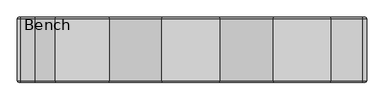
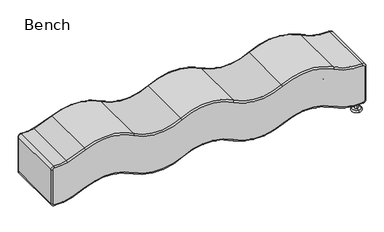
"""IFC4 building model written with IfcOpenShell, lengths in millimetres: furniture geometry, Steelcase Coalesse - Ripple - Seating - Upholstered Wave Bench : Bench."""

from ifc_helpers import new_model, si_unit, point, frame, origin, place, context, project, spatial, polyline, circle_curve, ellipse_curve, trimmed, source, transform, mapped, element, save
from ifc_brep_helpers import plane_surface, cylinder_surface, revolved_surface, advanced_brep


def bench_e00897dc(model_context):
    return source(origin(), model_context, "Body", "AdvancedBrep", [
        advanced_brep(
        [(217.0808224, -560.6034802, 394.8459861), (354.9260338, -560.6034802, 447.9823622), (359.2745131, -550.5474749, 438.9151702), (219.9435352, -550.5474749, 385.206063), (217.0808224, -997.5874749, 394.8459861), (354.9260338, -997.5874749, 447.9823622), (219.9731401, -1007.7474749, 385.1063713), (359.3194831, -1007.7474749, 438.8214014), (116.9633302, -550.5474749, 375.4634643), (117.9674344, -560.6034802, 385.4692135), (117.9674344, -997.5874749, 385.4692135), (116.9529462, -1007.7474749, 375.3599894), (103.6607329, -550.5474749, 363.4290037), (93.6047276, -560.6034802, 363.4290037), (93.6047276, -997.5874749, 363.4290037), (103.7647276, -1007.7474749, 363.4290037), (103.6607329, -550.5474749, 85.1991226), (93.6047276, -560.6034802, 85.1991226), (93.6047276, -997.5874749, 85.1991226), (103.7647276, -1007.7474749, 85.1991226), (117.9374665, -550.5474749, 69.6773498), (117.0986123, -560.6034802, 59.6563935), (117.0986123, -997.5874749, 59.6563935), (117.9461416, -1007.7474749, 69.7809821), (249.9208997, -550.5474749, 86.1724193), (253.2002344, -560.6034802, 76.6661474), (253.2002344, -997.5874749, 76.6661474), (249.8869863, -1007.7474749, 86.2707289), (361.761881, -550.5474749, 132.1036576), (366.1103603, -560.6034802, 123.0364656), (366.1103603, -997.5874749, 123.0364656), (361.716911, -1007.7474749, 132.1974264), (730.9453564, -550.5474749, 120.3068952), (726.0268792, -560.6034802, 111.5358164), (726.0268792, -997.5874749, 111.5358164), (730.9962211, -1007.7474749, 120.3976018), (1118.8827691, -550.5474749, 120.3068952), (1123.8012464, -560.6034802, 111.5358164), (1123.8012464, -997.5874749, 111.5358164), (1118.8319044, -1007.7474749, 120.3976018), (1509.3680399, -550.5474749, 121.0917164), (1504.4848595, -560.6034802, 112.3009376), (1504.4848595, -997.5874749, 112.3009376), (1509.4185396, -1007.7474749, 121.1826267), (1900.6885639, -550.5474749, 121.0917164), (1905.5717442, -560.6034802, 112.3009376), (1905.5717442, -997.5874749, 112.3009376), (1900.6380642, -1007.7474749, 121.1826267), (2289.7676524, -550.5474749, 121.0917164), (2284.8844721, -560.6034802, 112.3009376), (2284.8844721, -997.5874749, 112.3009376), (2289.8181521, -1007.7474749, 121.1826267), (2522.5927919, -550.5474749, 72.1140228), (2523.5203324, -560.6034802, 62.1008859), (2523.5203324, -997.5874749, 62.1008859), (2522.5831997, -1007.7474749, 72.2175742), (2536.7321568, -550.5474749, 87.6236839), (2546.7881621, -560.6034802, 87.6236839), (2546.7881621, -997.5874749, 87.6236839), (2536.6281621, -1007.7474749, 87.6236839), (2536.7321568, -550.5474749, 362.8480902), (2546.7881621, -560.6034802, 362.8480902), (2546.7881621, -997.5874749, 362.8480902), (2536.6281621, -1007.7474749, 362.8480902), (2519.7867444, -550.5474749, 378.3638423), (2518.9026824, -560.6034802, 388.3809115), (2518.9026824, -997.5874749, 388.3809115), (2519.7958869, -1007.7474749, 378.2602502), (2294.1327157, -550.5474749, 426.8674159), (2299.0547927, -560.6034802, 435.6364751), (2299.0547927, -997.5874749, 435.6364751), (2294.0818138, -1007.7474749, 426.7767302), (1896.3235006, -550.5474749, 426.8674159), (1891.4014236, -560.6034802, 435.6364751), (1891.4014236, -997.5874749, 435.6364751), (1896.3744025, -1007.7474749, 426.7767302), (1513.7331032, -550.5474749, 426.8674159), (1518.6551802, -560.6034802, 435.6364751), (1518.6551802, -997.5874749, 435.6364751), (1513.6822013, -1007.7474749, 426.7767302), (1112.8516905, -550.5474749, 425.1253907), (1107.8535891, -560.6034802, 433.851342), (1107.8535891, -997.5874749, 433.851342), (1112.9033786, -1007.7474749, 425.0351508), (736.9764351, -550.5474749, 425.1253907), (741.9745365, -560.6034802, 433.851342), (741.9745365, -997.5874749, 433.851342), (736.924747, -1007.7474749, 425.0351508)],
        [
            (0, 1, circle_curve(frame((-48.5135949, -560.6034802, 1289.2108358), z_axis=(0.0, -1.0, 0.0), x_axis=(0.432426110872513, 0.0, -0.9016693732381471)), 932.9677802)),
            (1, 2, circle_curve(frame((359.2745131, -560.6034802, 438.9151702), z_axis=(-0.9016693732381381, 0.0, -0.4324261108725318), x_axis=(0.0, -1.0, 0.0)), 10.0560053)),
            (2, 3, circle_curve(frame((-48.5135949, -550.5474749, 1289.2108358), z_axis=(0.0, 1.0, 0.0), x_axis=(0.432426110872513, 0.0, -0.9016693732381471)), 943.0237855)),
            (3, 0, circle_curve(frame((219.9435352, -560.6034802, 385.206063), z_axis=(0.958623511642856, 0.0, 0.28467694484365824), x_axis=(0.0, -1.0, 0.0)), 10.0560053)),
            (0, 4),
            (4, 5, circle_curve(frame((-48.5135949, -997.5874749, 1289.2108358), z_axis=(0.0, -1.0, 0.0), x_axis=(0.432426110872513, 0.0, -0.9016693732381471)), 932.9677802)),
            (5, 1),
            (4, 6, circle_curve(frame((219.9731401, -997.5874749, 385.1063713), z_axis=(0.958623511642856, 0.0, 0.2846769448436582), x_axis=(0.0, -1.0, 0.0)), 10.16)),
            (6, 7, circle_curve(frame((-48.5135949, -1007.7474749, 1289.2108358), z_axis=(0.0, -1.0, 0.0), x_axis=(0.432426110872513, 0.0, -0.9016693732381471)), 943.1277802)),
            (7, 5, circle_curve(frame((359.3194831, -997.5874749, 438.8214014), z_axis=(-0.9016693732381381, 0.0, -0.4324261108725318), x_axis=(0.0, -1.0, 0.0)), 10.16)),
            (3, 8, circle_curve(frame((143.7044081, -550.5474749, 641.9343339), z_axis=(0.0, 1.0, 0.0), x_axis=(0.284676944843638, 0.0, -0.958623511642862)), 267.8092784)),
            (8, 9, circle_curve(frame((116.9633302, -560.6034802, 375.4634643), z_axis=(0.9950023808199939, 0.0, -0.09985120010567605), x_axis=(0.0, -1.0, 0.0)), 10.0560053)),
            (9, 0, circle_curve(frame((143.7044081, -560.6034802, 641.9343339), z_axis=(0.0, -1.0, 0.0), x_axis=(0.284676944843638, 0.0, -0.958623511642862)), 257.7532731)),
            (9, 10),
            (10, 4, circle_curve(frame((143.7044081, -997.5874749, 641.9343339), z_axis=(0.0, -1.0, 0.0), x_axis=(0.284676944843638, 0.0, -0.958623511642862)), 257.7532731)),
            (10, 11, circle_curve(frame((116.9529462, -997.5874749, 375.3599894), z_axis=(0.995002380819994, 0.0, -0.09985120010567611), x_axis=(0.0, -1.0, 0.0)), 10.16)),
            (11, 6, circle_curve(frame((143.7044081, -1007.7474749, 641.9343339), z_axis=(0.0, -1.0, 0.0), x_axis=(0.284676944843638, 0.0, -0.958623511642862)), 267.9132731)),
            (8, 12, circle_curve(frame((115.7556393, -550.5474749, 363.4290037), z_axis=(0.0, -1.0, 0.0), x_axis=(0.09985120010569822, 0.0, 0.9950023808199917)), 12.0949064)),
            (12, 13, circle_curve(frame((103.6607329, -560.6034802, 363.4290037), z_axis=(0.0, 0.0, 1.0), x_axis=(0.0, -1.0, 0.0)), 10.0560053)),
            (13, 9, circle_curve(frame((115.7556393, -560.6034802, 363.4290037), z_axis=(0.0, 1.0, 0.0), x_axis=(0.09985120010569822, 0.0, 0.9950023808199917)), 22.1509117)),
            (13, 14),
            (14, 10, circle_curve(frame((115.7556393, -997.5874749, 363.4290037), z_axis=(0.0, 1.0, 0.0), x_axis=(0.09985120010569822, 0.0, 0.9950023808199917)), 22.1509117)),
            (14, 15, circle_curve(frame((103.7647276, -997.5874749, 363.4290037), z_axis=(0.0, 0.0, 1.0), x_axis=(0.0, -1.0, 0.0)), 10.16)),
            (15, 11, circle_curve(frame((115.7556393, -1007.7474749, 363.4290037), z_axis=(0.0, 1.0, 0.0), x_axis=(0.09985120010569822, 0.0, 0.9950023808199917)), 11.9909117)),
            (12, 16),
            (16, 17, circle_curve(frame((103.6607329, -560.6034802, 85.1991226), z_axis=(0.0, 0.0, 1.0), x_axis=(0.0, -1.0, 0.0)), 10.0560053)),
            (17, 13),
            (17, 18),
            (18, 14),
            (18, 19, circle_curve(frame((103.7647276, -997.5874749, 85.1991226), z_axis=(0.0, 0.0, 1.0), x_axis=(0.0, -1.0, 0.0)), 10.16)),
            (19, 15),
            (16, 20, circle_curve(frame((119.2367941, -550.5474749, 85.1991226), z_axis=(0.0, -1.0, 0.0), x_axis=(-1.0, 0.0, 0.0)), 15.5760612)),
            (20, 21, circle_curve(frame((117.9374665, -560.6034802, 69.6773498), z_axis=(-0.996514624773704, 0.0, 0.08341823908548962), x_axis=(0.0, -1.0, 0.0)), 10.0560053)),
            (21, 17, circle_curve(frame((119.2367941, -560.6034802, 85.1991226), z_axis=(0.0, 1.0, 0.0), x_axis=(-1.0, 0.0, 0.0)), 25.6320665)),
            (21, 22),
            (22, 18, circle_curve(frame((119.2367941, -997.5874749, 85.1991226), z_axis=(0.0, 1.0, 0.0), x_axis=(-1.0, 0.0, 0.0)), 25.6320665)),
            (22, 23, circle_curve(frame((117.9461416, -997.5874749, 69.7809821), z_axis=(-0.9965146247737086, 0.0, 0.08341823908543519), x_axis=(0.0, -1.0, 0.0)), 10.16)),
            (23, 19, circle_curve(frame((119.2367941, -1007.7474749, 85.1991226), z_axis=(0.0, 1.0, 0.0), x_axis=(-1.0, 0.0, 0.0)), 15.4720665)),
            (20, 24, circle_curve(frame((144.8218241, -550.5474749, 390.8379955), z_axis=(0.0, -1.0, 0.0), x_axis=(-0.08341823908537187, 0.0, -0.9965146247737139)), 322.2839261)),
            (24, 25, circle_curve(frame((249.9208997, -560.6034802, 86.1724193), z_axis=(-0.9453328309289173, 0.0, -0.3261070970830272), x_axis=(0.0, -1.0, 0.0)), 10.0560053)),
            (25, 21, circle_curve(frame((144.8218241, -560.6034802, 390.8379955), z_axis=(0.0, 1.0, 0.0), x_axis=(-0.08341823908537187, 0.0, -0.9965146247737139)), 332.3399313)),
            (25, 26),
            (26, 22, circle_curve(frame((144.8218241, -997.5874749, 390.8379955), z_axis=(0.0, 1.0, 0.0), x_axis=(-0.08341823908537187, 0.0, -0.9965146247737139)), 332.3399313)),
            (26, 27, circle_curve(frame((249.8869863, -997.5874749, 86.2707289), z_axis=(-0.9453328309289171, 0.0, -0.326107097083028), x_axis=(0.0, -1.0, 0.0)), 10.16)),
            (27, 23, circle_curve(frame((144.8218241, -1007.7474749, 390.8379955), z_axis=(0.0, 1.0, 0.0), x_axis=(-0.08341823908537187, 0.0, -0.9965146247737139)), 322.1799313)),
            (24, 28, circle_curve(frame((-93.1234576, -550.5474749, 1080.6036854), z_axis=(0.0, -1.0, 0.0), x_axis=(0.32610709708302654, 0.0, -0.9453328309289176)), 1051.9377235)),
            (28, 29, circle_curve(frame((361.761881, -560.6034802, 132.1036576), z_axis=(-0.9016693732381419, 0.0, -0.43242611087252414), x_axis=(0.0, -1.0, 0.0)), 10.0560053)),
            (29, 25, circle_curve(frame((-93.1234576, -560.6034802, 1080.6036854), z_axis=(0.0, 1.0, 0.0), x_axis=(0.32610709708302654, 0.0, -0.9453328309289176)), 1061.9937288)),
            (29, 30),
            (30, 26, circle_curve(frame((-93.1234576, -997.5874749, 1080.6036854), z_axis=(0.0, 1.0, 0.0), x_axis=(0.32610709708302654, 0.0, -0.9453328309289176)), 1061.9937288)),
            (30, 31, circle_curve(frame((361.716911, -997.5874749, 132.1974264), z_axis=(-0.9016693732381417, 0.0, -0.4324261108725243), x_axis=(0.0, -1.0, 0.0)), 10.16)),
            (31, 27, circle_curve(frame((-93.1234576, -1007.7474749, 1080.6036854), z_axis=(0.0, 1.0, 0.0), x_axis=(0.32610709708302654, 0.0, -0.9453328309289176)), 1051.8337288)),
            (28, 32, circle_curve(frame((534.9996299, -550.5474749, -229.1214593), z_axis=(0.0, 1.0, 0.0), x_axis=(-0.4324261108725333, 0.0, 0.9016693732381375)), 400.6181508)),
            (32, 33, circle_curve(frame((730.9453564, -560.6034802, 120.3068952), z_axis=(-0.8722229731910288, 0.0, 0.489108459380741), x_axis=(0.0, -1.0, 0.0)), 10.0560053)),
            (33, 29, circle_curve(frame((534.9996299, -560.6034802, -229.1214593), z_axis=(0.0, -1.0, 0.0), x_axis=(-0.4324261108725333, 0.0, 0.9016693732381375)), 390.5621455)),
            (33, 34),
            (34, 30, circle_curve(frame((534.9996299, -997.5874749, -229.1214593), z_axis=(0.0, -1.0, 0.0), x_axis=(-0.4324261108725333, 0.0, 0.9016693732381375)), 390.5621455)),
            (34, 35, circle_curve(frame((730.9962211, -997.5874749, 120.3976018), z_axis=(-0.8722229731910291, 0.0, 0.48910845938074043), x_axis=(0.0, -1.0, 0.0)), 10.16)),
            (35, 31, circle_curve(frame((534.9996299, -1007.7474749, -229.1214593), z_axis=(0.0, -1.0, 0.0), x_axis=(-0.4324261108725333, 0.0, 0.9016693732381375)), 400.7221455)),
            (32, 36, circle_curve(frame((924.9140628, -550.5474749, 466.2096465), z_axis=(0.0, -1.0, 0.0), x_axis=(-0.4891084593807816, 0.0, -0.872222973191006)), 396.5760612)),
            (36, 37, circle_curve(frame((1118.8827691, -560.6034802, 120.3068952), z_axis=(-0.8722229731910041, 0.0, -0.48910845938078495), x_axis=(0.0, -1.0, 0.0)), 10.0560053)),
            (37, 33, circle_curve(frame((924.9140628, -560.6034802, 466.2096465), z_axis=(0.0, 1.0, 0.0), x_axis=(-0.4891084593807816, 0.0, -0.872222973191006)), 406.6320665)),
            (37, 38),
            (38, 34, circle_curve(frame((924.9140628, -997.5874749, 466.2096465), z_axis=(0.0, 1.0, 0.0), x_axis=(-0.4891084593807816, 0.0, -0.872222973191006)), 406.6320665)),
            (38, 39, circle_curve(frame((1118.8319044, -997.5874749, 120.3976018), z_axis=(-0.8722229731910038, 0.0, -0.4891084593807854), x_axis=(0.0, -1.0, 0.0)), 10.16)),
            (39, 35, circle_curve(frame((924.9140628, -1007.7474749, 466.2096465), z_axis=(0.0, 1.0, 0.0), x_axis=(-0.4891084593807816, 0.0, -0.872222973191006)), 396.4720665)),
            (36, 40, circle_curve(frame((1314.8284956, -550.5474749, -229.1214593), z_axis=(0.0, 1.0, 0.0), x_axis=(-0.48910845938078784, 0.0, 0.8722229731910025)), 400.6181508)),
            (40, 41, circle_curve(frame((1509.3680399, -560.6034802, 121.0917164), z_axis=(-0.8741819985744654, 0.0, 0.485598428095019), x_axis=(0.0, -1.0, 0.0)), 10.0560053)),
            (41, 37, circle_curve(frame((1314.8284956, -560.6034802, -229.1214593), z_axis=(0.0, -1.0, 0.0), x_axis=(-0.48910845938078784, 0.0, 0.8722229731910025)), 390.5621455)),
            (41, 42),
            (42, 38, circle_curve(frame((1314.8284956, -997.5874749, -229.1214593), z_axis=(0.0, -1.0, 0.0), x_axis=(-0.48910845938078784, 0.0, 0.8722229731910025)), 390.5621455)),
            (42, 43, circle_curve(frame((1509.4185396, -997.5874749, 121.1826267), z_axis=(-0.8741819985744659, 0.0, 0.4855984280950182), x_axis=(0.0, -1.0, 0.0)), 10.16)),
            (43, 39, circle_curve(frame((1314.8284956, -1007.7474749, -229.1214593), z_axis=(0.0, -1.0, 0.0), x_axis=(-0.48910845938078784, 0.0, 0.8722229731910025)), 400.7221455)),
            (40, 44, circle_curve(frame((1705.0283019, -550.5474749, 473.3224259), z_axis=(0.0, -1.0, 0.0), x_axis=(-0.4855984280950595, 0.0, -0.8741819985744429)), 402.9260612)),
            (44, 45, circle_curve(frame((1900.6885639, -560.6034802, 121.0917164), z_axis=(-0.874181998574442, 0.0, -0.48559842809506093), x_axis=(0.0, -1.0, 0.0)), 10.0560053)),
            (45, 41, circle_curve(frame((1705.0283019, -560.6034802, 473.3224259), z_axis=(0.0, 1.0, 0.0), x_axis=(-0.4855984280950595, 0.0, -0.8741819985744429)), 412.9820665)),
            (45, 46),
            (46, 42, circle_curve(frame((1705.0283019, -997.5874749, 473.3224259), z_axis=(0.0, 1.0, 0.0), x_axis=(-0.4855984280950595, 0.0, -0.8741819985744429)), 412.9820665)),
            (46, 47, circle_curve(frame((1900.6380642, -997.5874749, 121.1826267), z_axis=(-0.8741819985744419, 0.0, -0.4855984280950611), x_axis=(0.0, -1.0, 0.0)), 10.16)),
            (47, 43, circle_curve(frame((1705.0283019, -1007.7474749, 473.3224259), z_axis=(0.0, 1.0, 0.0), x_axis=(-0.4855984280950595, 0.0, -0.8741819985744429)), 402.8220665)),
            (44, 48, circle_curve(frame((2095.2281081, -550.5474749, -229.1214593), z_axis=(0.0, 1.0, 0.0), x_axis=(-0.4855984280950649, 0.0, 0.8741819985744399)), 400.6181508)),
            (48, 49, circle_curve(frame((2289.7676524, -560.6034802, 121.0917164), z_axis=(-0.8741819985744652, 0.0, 0.48559842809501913), x_axis=(0.0, -1.0, 0.0)), 10.0560053)),
            (49, 45, circle_curve(frame((2095.2281081, -560.6034802, -229.1214593), z_axis=(0.0, -1.0, 0.0), x_axis=(-0.4855984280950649, 0.0, 0.8741819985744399)), 390.5621455)),
            (49, 50),
            (50, 46, circle_curve(frame((2095.2281081, -997.5874749, -229.1214593), z_axis=(0.0, -1.0, 0.0), x_axis=(-0.4855984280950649, 0.0, 0.8741819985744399)), 390.5621455)),
            (50, 51, circle_curve(frame((2289.8181521, -997.5874749, 121.1826267), z_axis=(-0.8741819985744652, 0.0, 0.48559842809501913), x_axis=(0.0, -1.0, 0.0)), 10.16)),
            (51, 47, circle_curve(frame((2095.2281081, -1007.7474749, -229.1214593), z_axis=(0.0, -1.0, 0.0), x_axis=(-0.4855984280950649, 0.0, 0.8741819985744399)), 400.7221455)),
            (48, 52, circle_curve(frame((2485.4279144, -550.5474749, 473.3224259), z_axis=(0.0, -1.0, 0.0), x_axis=(-0.4855984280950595, 0.0, -0.8741819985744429)), 402.9260612)),
            (52, 53, circle_curve(frame((2522.5927919, -560.6034802, 72.1140228), z_axis=(-0.9957370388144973, 0.0, -0.0922374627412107), x_axis=(0.0, -1.0, 0.0)), 10.0560053)),
            (53, 49, circle_curve(frame((2485.4279144, -560.6034802, 473.3224259), z_axis=(0.0, 1.0, 0.0), x_axis=(-0.4855984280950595, 0.0, -0.8741819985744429)), 412.9820665)),
            (53, 54),
            (54, 50, circle_curve(frame((2485.4279144, -997.5874749, 473.3224259), z_axis=(0.0, 1.0, 0.0), x_axis=(-0.4855984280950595, 0.0, -0.8741819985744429)), 412.9820665)),
            (54, 55, circle_curve(frame((2522.5831997, -997.5874749, 72.2175742), z_axis=(-0.9957370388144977, 0.0, -0.09223746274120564), x_axis=(0.0, -1.0, 0.0)), 10.16)),
            (55, 51, circle_curve(frame((2485.4279144, -1007.7474749, 473.3224259), z_axis=(0.0, 1.0, 0.0), x_axis=(-0.4855984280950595, 0.0, -0.8741819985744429)), 402.8220665)),
            (52, 56, circle_curve(frame((2521.1560956, -550.5474749, 87.6236839), z_axis=(0.0, -1.0, 0.0), x_axis=(0.09223746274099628, 0.0, -0.9957370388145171)), 15.5760612)),
            (56, 57, circle_curve(frame((2536.7321568, -560.6034802, 87.6236839), z_axis=(0.0, 0.0, -1.0), x_axis=(0.0, -1.0, 0.0)), 10.0560053)),
            (57, 53, circle_curve(frame((2521.1560956, -560.6034802, 87.6236839), z_axis=(0.0, 1.0, 0.0), x_axis=(0.09223746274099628, 0.0, -0.9957370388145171)), 25.6320665)),
            (57, 58),
            (58, 54, circle_curve(frame((2521.1560956, -997.5874749, 87.6236839), z_axis=(0.0, 1.0, 0.0), x_axis=(0.09223746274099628, 0.0, -0.9957370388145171)), 25.6320665)),
            (58, 59, circle_curve(frame((2536.6281621, -997.5874749, 87.6236839), z_axis=(0.0, 0.0, -0.9999999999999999), x_axis=(0.0, -1.0, 0.0)), 10.16)),
            (59, 55, circle_curve(frame((2521.1560956, -1007.7474749, 87.6236839), z_axis=(0.0, 1.0, 0.0), x_axis=(0.09223746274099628, 0.0, -0.9957370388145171)), 15.4720665)),
            (56, 60),
            (60, 61, circle_curve(frame((2536.7321568, -560.6034802, 362.8480902), z_axis=(0.0, 0.0, -1.0), x_axis=(0.0, -1.0, 0.0)), 10.0560053)),
            (61, 57),
            (61, 62),
            (62, 58),
            (62, 63, circle_curve(frame((2536.6281621, -997.5874749, 362.8480902), z_axis=(0.0, 0.0, -1.0), x_axis=(0.0, -1.0, 0.0)), 10.16)),
            (63, 59),
            (60, 64, circle_curve(frame((2521.1560956, -550.5474749, 362.8480902), z_axis=(0.0, -1.0, 0.0), x_axis=(1.0, 0.0, 0.0)), 15.5760612)),
            (64, 65, circle_curve(frame((2519.7867444, -560.6034802, 378.3638423), z_axis=(0.9961280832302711, 0.0, 0.08791383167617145), x_axis=(0.0, -1.0, 0.0)), 10.0560053)),
            (65, 61, circle_curve(frame((2521.1560956, -560.6034802, 362.8480902), z_axis=(0.0, 1.0, 0.0), x_axis=(1.0, 0.0, 0.0)), 25.6320665)),
            (65, 66),
            (66, 62, circle_curve(frame((2521.1560956, -997.5874749, 362.8480902), z_axis=(0.0, 1.0, 0.0), x_axis=(1.0, 0.0, 0.0)), 25.6320665)),
            (66, 67, circle_curve(frame((2519.7958869, -997.5874749, 378.2602502), z_axis=(0.9961280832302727, 0.0, 0.08791383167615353), x_axis=(0.0, -1.0, 0.0)), 10.16)),
            (67, 63, circle_curve(frame((2521.1560956, -1007.7474749, 362.8480902), z_axis=(0.0, 1.0, 0.0), x_axis=(1.0, 0.0, 0.0)), 15.4720665)),
            (64, 68, circle_curve(frame((2485.4279144, -550.5474749, 767.6745433), z_axis=(0.0, 1.0, 0.0), x_axis=(0.08791383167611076, 0.0, -0.9961280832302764)), 390.8239388)),
            (68, 69, circle_curve(frame((2294.1327157, -560.6034802, 426.8674159), z_axis=(0.872022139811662, 0.0, -0.4894664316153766), x_axis=(0.0, -1.0, 0.0)), 10.0560053)),
            (69, 65, circle_curve(frame((2485.4279144, -560.6034802, 767.6745433), z_axis=(0.0, -1.0, 0.0), x_axis=(0.08791383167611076, 0.0, -0.9961280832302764)), 380.7679335)),
            (69, 70),
            (70, 66, circle_curve(frame((2485.4279144, -997.5874749, 767.6745433), z_axis=(0.0, -1.0, 0.0), x_axis=(0.08791383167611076, 0.0, -0.9961280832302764)), 380.7679335)),
            (70, 71, circle_curve(frame((2294.0818138, -997.5874749, 426.7767302), z_axis=(0.872022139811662, 0.0, -0.4894664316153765), x_axis=(0.0, -1.0, 0.0)), 10.16)),
            (71, 67, circle_curve(frame((2485.4279144, -1007.7474749, 767.6745433), z_axis=(0.0, -1.0, 0.0), x_axis=(0.08791383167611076, 0.0, -0.9961280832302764)), 390.9279335)),
            (68, 72, circle_curve(frame((2095.2281081, -550.5474749, 72.5035407), z_axis=(0.0, -1.0, 0.0), x_axis=(0.4894664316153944, 0.0, 0.8720221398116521)), 406.3702732)),
            (72, 73, circle_curve(frame((1896.3235006, -560.6034802, 426.8674159), z_axis=(0.8720221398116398, 0.0, 0.4894664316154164), x_axis=(0.0, -1.0, 0.0)), 10.0560053)),
            (73, 69, circle_curve(frame((2095.2281081, -560.6034802, 72.5035407), z_axis=(0.0, 1.0, 0.0), x_axis=(0.4894664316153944, 0.0, 0.8720221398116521)), 416.4262785)),
            (73, 74),
            (74, 70, circle_curve(frame((2095.2281081, -997.5874749, 72.5035407), z_axis=(0.0, 1.0, 0.0), x_axis=(0.4894664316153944, 0.0, 0.8720221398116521)), 416.4262785)),
            (74, 75, circle_curve(frame((1896.3744025, -997.5874749, 426.7767302), z_axis=(0.8720221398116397, 0.0, 0.48946643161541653), x_axis=(0.0, -1.0, 0.0)), 10.16)),
            (75, 71, circle_curve(frame((2095.2281081, -1007.7474749, 72.5035407), z_axis=(0.0, 1.0, 0.0), x_axis=(0.4894664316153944, 0.0, 0.8720221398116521)), 406.2662785)),
            (72, 76, circle_curve(frame((1705.0283019, -550.5474749, 767.6745433), z_axis=(0.0, 1.0, 0.0), x_axis=(0.4894664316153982, 0.0, -0.8720221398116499)), 390.8239388)),
            (76, 77, circle_curve(frame((1513.7331032, -560.6034802, 426.8674159), z_axis=(0.8720221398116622, 0.0, -0.4894664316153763), x_axis=(0.0, -1.0, 0.0)), 10.0560053)),
            (77, 73, circle_curve(frame((1705.0283019, -560.6034802, 767.6745433), z_axis=(0.0, -1.0, 0.0), x_axis=(0.4894664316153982, 0.0, -0.8720221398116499)), 380.7679335)),
            (77, 78),
            (78, 74, circle_curve(frame((1705.0283019, -997.5874749, 767.6745433), z_axis=(0.0, -1.0, 0.0), x_axis=(0.4894664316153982, 0.0, -0.8720221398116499)), 380.7679335)),
            (78, 79, circle_curve(frame((1513.6822013, -997.5874749, 426.7767302), z_axis=(0.872022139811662, 0.0, -0.48946643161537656), x_axis=(0.0, -1.0, 0.0)), 10.16)),
            (79, 75, circle_curve(frame((1705.0283019, -1007.7474749, 767.6745433), z_axis=(0.0, -1.0, 0.0), x_axis=(0.4894664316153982, 0.0, -0.8720221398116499)), 390.9279335)),
            (76, 80, circle_curve(frame((1314.8284956, -550.5474749, 72.5035407), z_axis=(0.0, -1.0, 0.0), x_axis=(0.4894664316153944, 0.0, 0.8720221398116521)), 406.3702732)),
            (80, 81, circle_curve(frame((1112.8516905, -560.6034802, 425.1253907), z_axis=(0.8677353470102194, 0.0, 0.49702652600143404), x_axis=(0.0, -1.0, 0.0)), 10.0560053)),
            (81, 77, circle_curve(frame((1314.8284956, -560.6034802, 72.5035407), z_axis=(0.0, 1.0, 0.0), x_axis=(0.4894664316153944, 0.0, 0.8720221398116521)), 416.4262785)),
            (81, 82),
            (82, 78, circle_curve(frame((1314.8284956, -997.5874749, 72.5035407), z_axis=(0.0, 1.0, 0.0), x_axis=(0.4894664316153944, 0.0, 0.8720221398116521)), 416.4262785)),
            (82, 83, circle_curve(frame((1112.9033786, -997.5874749, 425.0351508), z_axis=(0.8677353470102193, 0.0, 0.49702652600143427), x_axis=(0.0, -1.0, 0.0)), 10.16)),
            (83, 79, circle_curve(frame((1314.8284956, -1007.7474749, 72.5035407), z_axis=(0.0, 1.0, 0.0), x_axis=(0.4894664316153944, 0.0, 0.8720221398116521)), 406.2662785)),
            (80, 84, circle_curve(frame((924.9140628, -550.5474749, 753.2368979), z_axis=(0.0, 1.0, 0.0), x_axis=(0.49702652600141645, 0.0, -0.8677353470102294)), 378.1239388)),
            (84, 85, circle_curve(frame((736.9764351, -560.6034802, 425.1253907), z_axis=(0.8677353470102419, 0.0, -0.4970265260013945), x_axis=(0.0, -1.0, 0.0)), 10.0560053)),
            (85, 81, circle_curve(frame((924.9140628, -560.6034802, 753.2368979), z_axis=(0.0, -1.0, 0.0), x_axis=(0.49702652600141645, 0.0, -0.8677353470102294)), 368.0679335)),
            (85, 86),
            (86, 82, circle_curve(frame((924.9140628, -997.5874749, 753.2368979), z_axis=(0.0, -1.0, 0.0), x_axis=(0.49702652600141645, 0.0, -0.8677353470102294)), 368.0679335)),
            (86, 87, circle_curve(frame((736.924747, -997.5874749, 425.0351508), z_axis=(0.867735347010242, 0.0, -0.4970265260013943), x_axis=(0.0, -1.0, 0.0)), 10.16)),
            (87, 83, circle_curve(frame((924.9140628, -1007.7474749, 753.2368979), z_axis=(0.0, -1.0, 0.0), x_axis=(0.49702652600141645, 0.0, -0.8677353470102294)), 378.2279335)),
            (2, 84, circle_curve(frame((534.9996299, -550.5474749, 72.5035407), z_axis=(0.0, 1.0, 0.0), x_axis=(0.49702652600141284, 0.0, 0.8677353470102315)), 406.3702732)),
            (1, 85, circle_curve(frame((534.9996299, -560.6034802, 72.5035407), z_axis=(0.0, 1.0, 0.0), x_axis=(0.49702652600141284, 0.0, 0.8677353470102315)), 416.4262785)),
            (5, 86, circle_curve(frame((534.9996299, -997.5874749, 72.5035407), z_axis=(0.0, 1.0, 0.0), x_axis=(0.49702652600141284, 0.0, 0.8677353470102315)), 416.4262785)),
            (7, 87, circle_curve(frame((534.9996299, -1007.7474749, 72.5035407), z_axis=(0.0, 1.0, 0.0), x_axis=(0.49702652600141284, 0.0, 0.8677353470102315)), 406.2662785)),
        ],
        [
            revolved_surface(trimmed(ellipse_curve(frame((359.2745131, -560.6034802, 438.9151702), z_axis=(0.9016693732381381, 0.0, 0.4324261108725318), x_axis=(0.0, -1.0, 0.0)), 10.0560053, 10.0560053), [point((359.2745131, -550.5474749, 438.9151702))], [point((354.9260338, -560.6034802, 447.9823622))], True, "CARTESIAN"), (-48.5135949, -1007.7474749, 1289.2108358), (0.0, 1.0, 0.0)),
            revolved_surface(polyline([(354.9260338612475, -560.6034802, 447.9823621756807), (354.9260338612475, -997.5874749, 447.9823621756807)]), (-48.5135949, -1007.7474749, 1289.2108358), (0.0, 1.0, 0.0)),
            revolved_surface(trimmed(ellipse_curve(frame((359.3194831, -997.5874749, 438.8214014), z_axis=(0.9016693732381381, 0.0, 0.4324261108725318), x_axis=(0.0, -1.0, 0.0)), 10.16, 10.16), [point((354.9260338, -997.5874749, 447.9823622))], [point((359.3194831, -1007.7474749, 438.8214014))], True, "CARTESIAN"), (-48.5135949, -1007.7474749, 1289.2108358), (0.0, 1.0, 0.0)),
            revolved_surface(trimmed(ellipse_curve(frame((219.9435352, -560.6034802, 385.206063), z_axis=(0.958623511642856, 0.0, 0.28467694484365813), x_axis=(0.0, -1.0, 0.0)), 10.0560053, 10.0560053), [point((219.9435352, -550.5474749, 385.206063))], [point((217.0808224, -560.6034802, 394.8459861))], True, "CARTESIAN"), (143.7044081, -1007.7474749, 641.9343339), (0.0, 1.0, 0.0)),
            revolved_surface(polyline([(217.08082240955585, -560.6034802, 394.8459861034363), (217.08082240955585, -997.5874749, 394.8459861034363)]), (143.7044081, -1007.7474749, 641.9343339), (0.0, 1.0, 0.0)),
            revolved_surface(trimmed(ellipse_curve(frame((219.9731401, -997.5874749, 385.1063713), z_axis=(0.958623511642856, 0.0, 0.28467694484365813), x_axis=(0.0, -1.0, 0.0)), 10.16, 10.16), [point((217.0808224, -997.5874749, 394.8459861))], [point((219.9731401, -1007.7474749, 385.1063713))], True, "CARTESIAN"), (143.7044081, -1007.7474749, 641.9343339), (0.0, 1.0, 0.0)),
            revolved_surface(trimmed(ellipse_curve(frame((116.9633302, -560.6034802, 375.4634643), z_axis=(0.9950023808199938, 0.0, -0.09985120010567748), x_axis=(0.0, -1.0, 0.0)), 10.0560053, 10.0560053), [point((116.9633302, -550.5474749, 375.4634643))], [point((117.9674344, -560.6034802, 385.4692135))], True, "CARTESIAN"), (115.7556393, -1007.7474749, 363.4290037), (0.0, -1.0, 0.0)),
            cylinder_surface(frame((115.7556393, -1007.7474749, 363.4290037), z_axis=(0.0, -1.0, 0.0), x_axis=(0.09985120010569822, 0.0, 0.9950023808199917)), 22.1509117),
            revolved_surface(trimmed(ellipse_curve(frame((116.9529462, -997.5874749, 375.3599894), z_axis=(0.9950023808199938, 0.0, -0.09985120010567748), x_axis=(0.0, -1.0, 0.0)), 10.16, 10.16), [point((117.9674344, -997.5874749, 385.4692135))], [point((116.9529462, -1007.7474749, 375.3599894))], True, "CARTESIAN"), (115.7556393, -1007.7474749, 363.4290037), (0.0, -1.0, 0.0)),
            cylinder_surface(frame((103.6607329, -560.6034802, 363.4290037), z_axis=(0.0, 0.0, 1.0), x_axis=(0.0, -1.0, 0.0)), 10.0560053),
            plane_surface(frame((93.6047276, -560.6034802, 363.4290037), z_axis=(-1.0, 0.0, 0.0), x_axis=(0.0, 0.0, -1.0))),
            cylinder_surface(frame((103.7647276, -997.5874749, 363.4290037), z_axis=(0.0, 0.0, 1.0), x_axis=(0.0, -1.0, 0.0)), 10.16),
            revolved_surface(trimmed(ellipse_curve(frame((103.6607329, -560.6034802, 85.1991226), z_axis=(0.0, 0.0, 1.0), x_axis=(0.0, -1.0, 0.0)), 10.0560053, 10.0560053), [point((103.6607329, -550.5474749, 85.1991226))], [point((93.6047276, -560.6034802, 85.1991226))], True, "CARTESIAN"), (119.2367941, -1007.7474749, 85.1991226), (0.0, -1.0, 0.0)),
            cylinder_surface(frame((119.2367941, -1007.7474749, 85.1991226), z_axis=(0.0, -1.0, 0.0), x_axis=(-1.0, 0.0, 0.0)), 25.6320665),
            revolved_surface(trimmed(ellipse_curve(frame((103.7647276, -997.5874749, 85.1991226), z_axis=(0.0, 0.0, 1.0), x_axis=(0.0, -1.0, 0.0)), 10.16, 10.16), [point((93.6047276, -997.5874749, 85.1991226))], [point((103.7647276, -1007.7474749, 85.1991226))], True, "CARTESIAN"), (119.2367941, -1007.7474749, 85.1991226), (0.0, -1.0, 0.0)),
            revolved_surface(trimmed(ellipse_curve(frame((117.9374665, -560.6034802, 69.6773498), z_axis=(-0.9965146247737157, 0.0, 0.08341823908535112), x_axis=(0.0, -1.0, 0.0)), 10.0560053, 10.0560053), [point((117.9374665, -550.5474749, 69.6773498))], [point((117.0986123, -560.6034802, 59.6563935))], True, "CARTESIAN"), (144.8218241, -1007.7474749, 390.8379955), (0.0, -1.0, 0.0)),
            cylinder_surface(frame((144.8218241, -1007.7474749, 390.8379955), z_axis=(0.0, -1.0, 0.0), x_axis=(-0.08341823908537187, 0.0, -0.9965146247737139)), 332.3399313),
            revolved_surface(trimmed(ellipse_curve(frame((117.9461416, -997.5874749, 69.7809821), z_axis=(-0.9965146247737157, 0.0, 0.08341823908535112), x_axis=(0.0, -1.0, 0.0)), 10.16, 10.16), [point((117.0986123, -997.5874749, 59.6563935))], [point((117.9461416, -1007.7474749, 69.7809821))], True, "CARTESIAN"), (144.8218241, -1007.7474749, 390.8379955), (0.0, -1.0, 0.0)),
            revolved_surface(trimmed(ellipse_curve(frame((249.9208997, -560.6034802, 86.1724193), z_axis=(-0.9453328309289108, 0.0, -0.3261070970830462), x_axis=(0.0, -1.0, 0.0)), 10.0560053, 10.0560053), [point((249.9208997, -550.5474749, 86.1724193))], [point((253.2002344, -560.6034802, 76.6661474))], True, "CARTESIAN"), (-93.1234576, -1007.7474749, 1080.6036854), (0.0, -1.0, 0.0)),
            cylinder_surface(frame((-93.1234576, -1007.7474749, 1080.6036854), z_axis=(0.0, -1.0, 0.0), x_axis=(0.32610709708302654, 0.0, -0.9453328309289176)), 1061.9937288),
            revolved_surface(trimmed(ellipse_curve(frame((249.8869863, -997.5874749, 86.2707289), z_axis=(-0.9453328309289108, 0.0, -0.3261070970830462), x_axis=(0.0, -1.0, 0.0)), 10.16, 10.16), [point((253.2002344, -997.5874749, 76.6661474))], [point((249.8869863, -1007.7474749, 86.2707289))], True, "CARTESIAN"), (-93.1234576, -1007.7474749, 1080.6036854), (0.0, -1.0, 0.0)),
            revolved_surface(trimmed(ellipse_curve(frame((361.761881, -560.6034802, 132.1036576), z_axis=(-0.9016693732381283, 0.0, -0.4324261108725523), x_axis=(0.0, -1.0, 0.0)), 10.0560053, 10.0560053), [point((361.761881, -550.5474749, 132.1036576))], [point((366.1103603, -560.6034802, 123.0364656))], True, "CARTESIAN"), (534.9996299, -1007.7474749, -229.1214593), (0.0, 1.0, 0.0)),
            revolved_surface(polyline([(366.1103602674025, -560.6034802, 123.03646564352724), (366.1103602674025, -997.5874749, 123.03646564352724)]), (534.9996299, -1007.7474749, -229.1214593), (0.0, 1.0, 0.0)),
            revolved_surface(trimmed(ellipse_curve(frame((361.716911, -997.5874749, 132.1974264), z_axis=(-0.9016693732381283, 0.0, -0.4324261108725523), x_axis=(0.0, -1.0, 0.0)), 10.16, 10.16), [point((366.1103603, -997.5874749, 123.0364656))], [point((361.716911, -1007.7474749, 132.1974264))], True, "CARTESIAN"), (534.9996299, -1007.7474749, -229.1214593), (0.0, 1.0, 0.0)),
            revolved_surface(trimmed(ellipse_curve(frame((730.9453564, -560.6034802, 120.3068952), z_axis=(-0.872222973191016, 0.0, 0.48910845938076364), x_axis=(0.0, -1.0, 0.0)), 10.0560053, 10.0560053), [point((730.9453564, -550.5474749, 120.3068952))], [point((726.0268792, -560.6034802, 111.5358164))], True, "CARTESIAN"), (924.9140628, -1007.7474749, 466.2096465), (0.0, -1.0, 0.0)),
            cylinder_surface(frame((924.9140628, -1007.7474749, 466.2096465), z_axis=(0.0, -1.0, 0.0), x_axis=(-0.4891084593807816, 0.0, -0.872222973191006)), 406.6320665),
            revolved_surface(trimmed(ellipse_curve(frame((730.9962211, -997.5874749, 120.3976018), z_axis=(-0.872222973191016, 0.0, 0.48910845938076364), x_axis=(0.0, -1.0, 0.0)), 10.16, 10.16), [point((726.0268792, -997.5874749, 111.5358164))], [point((730.9962211, -1007.7474749, 120.3976018))], True, "CARTESIAN"), (924.9140628, -1007.7474749, 466.2096465), (0.0, -1.0, 0.0)),
            revolved_surface(trimmed(ellipse_curve(frame((1118.8827691, -560.6034802, 120.3068952), z_axis=(-0.8722229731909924, 0.0, -0.4891084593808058), x_axis=(0.0, -1.0, 0.0)), 10.0560053, 10.0560053), [point((1118.8827691, -550.5474749, 120.3068952))], [point((1123.8012464, -560.6034802, 111.5358164))], True, "CARTESIAN"), (1314.8284956, -1007.7474749, -229.1214593), (0.0, 1.0, 0.0)),
            revolved_surface(polyline([(1123.8012463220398, -560.6034802, 111.5358164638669), (1123.8012463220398, -997.5874749, 111.5358164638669)]), (1314.8284956, -1007.7474749, -229.1214593), (0.0, 1.0, 0.0)),
            revolved_surface(trimmed(ellipse_curve(frame((1118.8319044, -997.5874749, 120.3976018), z_axis=(-0.8722229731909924, 0.0, -0.4891084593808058), x_axis=(0.0, -1.0, 0.0)), 10.16, 10.16), [point((1123.8012464, -997.5874749, 111.5358164))], [point((1118.8319044, -1007.7474749, 120.3976018))], True, "CARTESIAN"), (1314.8284956, -1007.7474749, -229.1214593), (0.0, 1.0, 0.0)),
            revolved_surface(trimmed(ellipse_curve(frame((1509.3680399, -560.6034802, 121.0917164), z_axis=(-0.8741819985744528, 0.0, 0.4855984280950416), x_axis=(0.0, -1.0, 0.0)), 10.0560053, 10.0560053), [point((1509.3680399, -550.5474749, 121.0917164))], [point((1504.4848595, -560.6034802, 112.3009376))], True, "CARTESIAN"), (1705.0283019, -1007.7474749, 473.3224259), (0.0, -1.0, 0.0)),
            cylinder_surface(frame((1705.0283019, -1007.7474749, 473.3224259), z_axis=(0.0, -1.0, 0.0), x_axis=(-0.4855984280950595, 0.0, -0.8741819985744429)), 412.9820665),
            revolved_surface(trimmed(ellipse_curve(frame((1509.4185396, -997.5874749, 121.1826267), z_axis=(-0.8741819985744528, 0.0, 0.4855984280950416), x_axis=(0.0, -1.0, 0.0)), 10.16, 10.16), [point((1504.4848595, -997.5874749, 112.3009376))], [point((1509.4185396, -1007.7474749, 121.1826267))], True, "CARTESIAN"), (1705.0283019, -1007.7474749, 473.3224259), (0.0, -1.0, 0.0)),
            revolved_surface(trimmed(ellipse_curve(frame((1900.6885639, -560.6034802, 121.0917164), z_axis=(-0.8741819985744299, 0.0, -0.48559842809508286), x_axis=(0.0, -1.0, 0.0)), 10.0560053, 10.0560053), [point((1900.6885639, -550.5474749, 121.0917164))], [point((1905.5717442, -560.6034802, 112.3009376))], True, "CARTESIAN"), (2095.2281081, -1007.7474749, -229.1214593), (0.0, 1.0, 0.0)),
            revolved_surface(polyline([(1905.571744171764, -560.6034802, 112.30093762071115), (1905.571744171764, -997.5874749, 112.30093762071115)]), (2095.2281081, -1007.7474749, -229.1214593), (0.0, 1.0, 0.0)),
            revolved_surface(trimmed(ellipse_curve(frame((1900.6380642, -997.5874749, 121.1826267), z_axis=(-0.8741819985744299, 0.0, -0.48559842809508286), x_axis=(0.0, -1.0, 0.0)), 10.16, 10.16), [point((1905.5717442, -997.5874749, 112.3009376))], [point((1900.6380642, -1007.7474749, 121.1826267))], True, "CARTESIAN"), (2095.2281081, -1007.7474749, -229.1214593), (0.0, 1.0, 0.0)),
            revolved_surface(trimmed(ellipse_curve(frame((2289.7676524, -560.6034802, 121.0917164), z_axis=(-0.8741819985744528, 0.0, 0.4855984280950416), x_axis=(0.0, -1.0, 0.0)), 10.0560053, 10.0560053), [point((2289.7676524, -550.5474749, 121.0917164))], [point((2284.8844721, -560.6034802, 112.3009376))], True, "CARTESIAN"), (2485.4279144, -1007.7474749, 473.3224259), (0.0, -1.0, 0.0)),
            cylinder_surface(frame((2485.4279144, -1007.7474749, 473.3224259), z_axis=(0.0, -1.0, 0.0), x_axis=(-0.4855984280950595, 0.0, -0.8741819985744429)), 412.9820665),
            revolved_surface(trimmed(ellipse_curve(frame((2289.8181521, -997.5874749, 121.1826267), z_axis=(-0.8741819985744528, 0.0, 0.4855984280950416), x_axis=(0.0, -1.0, 0.0)), 10.16, 10.16), [point((2284.8844721, -997.5874749, 112.3009376))], [point((2289.8181521, -1007.7474749, 121.1826267))], True, "CARTESIAN"), (2485.4279144, -1007.7474749, 473.3224259), (0.0, -1.0, 0.0)),
            revolved_surface(trimmed(ellipse_curve(frame((2522.5927919, -560.6034802, 72.1140228), z_axis=(-0.9957370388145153, 0.0, -0.09223746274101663), x_axis=(0.0, -1.0, 0.0)), 10.0560053, 10.0560053), [point((2522.5927919, -550.5474749, 72.1140228))], [point((2523.5203324, -560.6034802, 62.1008859))], True, "CARTESIAN"), (2521.1560956, -1007.7474749, 87.6236839), (0.0, -1.0, 0.0)),
            cylinder_surface(frame((2521.1560956, -1007.7474749, 87.6236839), z_axis=(0.0, -1.0, 0.0), x_axis=(0.09223746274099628, 0.0, -0.9957370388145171)), 25.6320665),
            revolved_surface(trimmed(ellipse_curve(frame((2522.5831997, -997.5874749, 72.2175742), z_axis=(-0.9957370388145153, 0.0, -0.09223746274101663), x_axis=(0.0, -1.0, 0.0)), 10.16, 10.16), [point((2523.5203324, -997.5874749, 62.1008859))], [point((2522.5831997, -1007.7474749, 72.2175742))], True, "CARTESIAN"), (2521.1560956, -1007.7474749, 87.6236839), (0.0, -1.0, 0.0)),
            cylinder_surface(frame((2536.7321568, -560.6034802, 87.6236839), z_axis=(0.0, 0.0, -1.0), x_axis=(0.0, -1.0, 0.0)), 10.0560053),
            plane_surface(frame((2546.7881621, -560.6034802, 87.6236839), z_axis=(1.0, 0.0, 0.0), x_axis=(0.0, 0.0, 1.0))),
            cylinder_surface(frame((2536.6281621, -997.5874749, 87.6236839), z_axis=(0.0, 0.0, -1.0), x_axis=(0.0, -1.0, 0.0)), 10.16),
            revolved_surface(trimmed(ellipse_curve(frame((2536.7321568, -560.6034802, 362.8480902), z_axis=(0.0, 0.0, -1.0), x_axis=(0.0, -1.0, 0.0)), 10.0560053, 10.0560053), [point((2536.7321568, -550.5474749, 362.8480902))], [point((2546.7881621, -560.6034802, 362.8480902))], True, "CARTESIAN"), (2521.1560956, -1007.7474749, 362.8480902), (0.0, -1.0, 0.0)),
            cylinder_surface(frame((2521.1560956, -1007.7474749, 362.8480902), z_axis=(0.0, -1.0, 0.0), x_axis=(1.0, 0.0, 0.0)), 25.6320665),
            revolved_surface(trimmed(ellipse_curve(frame((2536.6281621, -997.5874749, 362.8480902), z_axis=(0.0, 0.0, -1.0), x_axis=(0.0, -1.0, 0.0)), 10.16, 10.16), [point((2546.7881621, -997.5874749, 362.8480902))], [point((2536.6281621, -1007.7474749, 362.8480902))], True, "CARTESIAN"), (2521.1560956, -1007.7474749, 362.8480902), (0.0, -1.0, 0.0)),
            revolved_surface(trimmed(ellipse_curve(frame((2519.7867444, -560.6034802, 378.3638423), z_axis=(0.9961280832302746, 0.0, 0.087913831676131), x_axis=(0.0, -1.0, 0.0)), 10.0560053, 10.0560053), [point((2519.7867444, -550.5474749, 378.3638423))], [point((2518.9026824, -560.6034802, 388.3809115))], True, "CARTESIAN"), (2485.4279144, -1007.7474749, 767.6745433), (0.0, 1.0, 0.0)),
            revolved_surface(polyline([(2518.90268241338, -560.6034802, 388.3809115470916), (2518.90268241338, -997.5874749, 388.3809115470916)]), (2485.4279144, -1007.7474749, 767.6745433), (0.0, 1.0, 0.0)),
            revolved_surface(trimmed(ellipse_curve(frame((2519.7958869, -997.5874749, 378.2602502), z_axis=(0.9961280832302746, 0.0, 0.087913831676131), x_axis=(0.0, -1.0, 0.0)), 10.16, 10.16), [point((2518.9026824, -997.5874749, 388.3809115))], [point((2519.7958869, -1007.7474749, 378.2602502))], True, "CARTESIAN"), (2485.4279144, -1007.7474749, 767.6745433), (0.0, 1.0, 0.0)),
            revolved_surface(trimmed(ellipse_curve(frame((2294.1327157, -560.6034802, 426.8674159), z_axis=(0.8720221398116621, 0.0, -0.4894664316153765), x_axis=(0.0, -1.0, 0.0)), 10.0560053, 10.0560053), [point((2294.1327157, -550.5474749, 426.8674159))], [point((2299.0547927, -560.6034802, 435.6364751))], True, "CARTESIAN"), (2095.2281081, -1007.7474749, 72.5035407), (0.0, -1.0, 0.0)),
            cylinder_surface(frame((2095.2281081, -1007.7474749, 72.5035407), z_axis=(0.0, -1.0, 0.0), x_axis=(0.4894664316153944, 0.0, 0.8720221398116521)), 416.4262785),
            revolved_surface(trimmed(ellipse_curve(frame((2294.0818138, -997.5874749, 426.7767302), z_axis=(0.8720221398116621, 0.0, -0.4894664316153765), x_axis=(0.0, -1.0, 0.0)), 10.16, 10.16), [point((2299.0547927, -997.5874749, 435.6364751))], [point((2294.0818138, -1007.7474749, 426.7767302))], True, "CARTESIAN"), (2095.2281081, -1007.7474749, 72.5035407), (0.0, -1.0, 0.0)),
            revolved_surface(trimmed(ellipse_curve(frame((1896.3235006, -560.6034802, 426.8674159), z_axis=(0.8720221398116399, 0.0, 0.4894664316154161), x_axis=(0.0, -1.0, 0.0)), 10.0560053, 10.0560053), [point((1896.3235006, -550.5474749, 426.8674159))], [point((1891.4014236, -560.6034802, 435.6364751))], True, "CARTESIAN"), (1705.0283019, -1007.7474749, 767.6745433), (0.0, 1.0, 0.0)),
            revolved_surface(polyline([(1891.4014235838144, -560.6034802, 435.63647515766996), (1891.4014235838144, -997.5874749, 435.63647515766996)]), (1705.0283019, -1007.7474749, 767.6745433), (0.0, 1.0, 0.0)),
            revolved_surface(trimmed(ellipse_curve(frame((1896.3744025, -997.5874749, 426.7767302), z_axis=(0.8720221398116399, 0.0, 0.4894664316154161), x_axis=(0.0, -1.0, 0.0)), 10.16, 10.16), [point((1891.4014236, -997.5874749, 435.6364751))], [point((1896.3744025, -1007.7474749, 426.7767302))], True, "CARTESIAN"), (1705.0283019, -1007.7474749, 767.6745433), (0.0, 1.0, 0.0)),
            revolved_surface(trimmed(ellipse_curve(frame((1513.7331032, -560.6034802, 426.8674159), z_axis=(0.8720221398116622, 0.0, -0.4894664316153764), x_axis=(0.0, -1.0, 0.0)), 10.0560053, 10.0560053), [point((1513.7331032, -550.5474749, 426.8674159))], [point((1518.6551802, -560.6034802, 435.6364751))], True, "CARTESIAN"), (1314.8284956, -1007.7474749, 72.5035407), (0.0, -1.0, 0.0)),
            cylinder_surface(frame((1314.8284956, -1007.7474749, 72.5035407), z_axis=(0.0, -1.0, 0.0), x_axis=(0.4894664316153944, 0.0, 0.8720221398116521)), 416.4262785),
            revolved_surface(trimmed(ellipse_curve(frame((1513.6822013, -997.5874749, 426.7767302), z_axis=(0.8720221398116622, 0.0, -0.4894664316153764), x_axis=(0.0, -1.0, 0.0)), 10.16, 10.16), [point((1518.6551802, -997.5874749, 435.6364751))], [point((1513.6822013, -1007.7474749, 426.7767302))], True, "CARTESIAN"), (1314.8284956, -1007.7474749, 72.5035407), (0.0, -1.0, 0.0)),
            revolved_surface(trimmed(ellipse_curve(frame((1112.8516905, -560.6034802, 425.1253907), z_axis=(0.867735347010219, 0.0, 0.4970265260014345), x_axis=(0.0, -1.0, 0.0)), 10.0560053, 10.0560053), [point((1112.8516905, -550.5474749, 425.1253907))], [point((1107.8535891, -560.6034802, 433.851342))], True, "CARTESIAN"), (924.9140628, -1007.7474749, 753.2368979), (0.0, 1.0, 0.0)),
            revolved_surface(polyline([(1107.8535891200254, -560.6034802, 433.8513419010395), (1107.8535891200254, -997.5874749, 433.8513419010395)]), (924.9140628, -1007.7474749, 753.2368979), (0.0, 1.0, 0.0)),
            revolved_surface(trimmed(ellipse_curve(frame((1112.9033786, -997.5874749, 425.0351508), z_axis=(0.867735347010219, 0.0, 0.4970265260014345), x_axis=(0.0, -1.0, 0.0)), 10.16, 10.16), [point((1107.8535891, -997.5874749, 433.851342))], [point((1112.9033786, -1007.7474749, 425.0351508))], True, "CARTESIAN"), (924.9140628, -1007.7474749, 753.2368979), (0.0, 1.0, 0.0)),
            plane_surface(frame((534.9996299, -550.5474749, 72.5035407), z_axis=(0.0, 1.0000000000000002, 0.0), x_axis=(0.4970265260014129, 0.0, 0.8677353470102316))),
            revolved_surface(trimmed(ellipse_curve(frame((736.9764351, -560.6034802, 425.1253907), z_axis=(0.8677353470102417, 0.0, -0.49702652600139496), x_axis=(0.0, -1.0, 0.0)), 10.0560053, 10.0560053), [point((736.9764351, -550.5474749, 425.1253907))], [point((741.9745365, -560.6034802, 433.851342))], True, "CARTESIAN"), (534.9996299, -1007.7474749, 72.5035407), (0.0, -1.0, 0.0)),
            cylinder_surface(frame((534.9996299, -1007.7474749, 72.5035407), z_axis=(0.0, -1.0, 0.0), x_axis=(0.49702652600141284, 0.0, 0.8677353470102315)), 416.4262785),
            revolved_surface(trimmed(ellipse_curve(frame((736.924747, -997.5874749, 425.0351508), z_axis=(0.8677353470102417, 0.0, -0.49702652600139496), x_axis=(0.0, -1.0, 0.0)), 10.16, 10.16), [point((741.9745365, -997.5874749, 433.851342))], [point((736.924747, -1007.7474749, 425.0351508))], True, "CARTESIAN"), (534.9996299, -1007.7474749, 72.5035407), (0.0, -1.0, 0.0)),
            plane_surface(frame((534.9996299, -1007.7474749, 72.5035407), z_axis=(0.0, -1.0000000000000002, 0.0), x_axis=(0.4970265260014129, 0.0, 0.8677353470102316))),
        ],
        [
            (0, [[1, 2, 3, 4]]),
            (1, [[-1, 5, 6, 7]]),
            (2, [[-6, 8, 9, 10]]),
            (3, [[-4, 11, 12, 13]]),
            (4, [[-5, -13, 14, 15]]),
            (5, [[-8, -15, 16, 17]]),
            (6, [[-12, 18, 19, 20]]),
            (7, [[-14, -20, 21, 22]]),
            (8, [[-16, -22, 23, 24]]),
            (9, [[-19, 25, 26, 27]]),
            (10, [[-21, -27, 28, 29]]),
            (11, [[-23, -29, 30, 31]]),
            (12, [[-26, 32, 33, 34]]),
            (13, [[-28, -34, 35, 36]]),
            (14, [[-30, -36, 37, 38]]),
            (15, [[-33, 39, 40, 41]]),
            (16, [[-35, -41, 42, 43]]),
            (17, [[-37, -43, 44, 45]]),
            (18, [[-40, 46, 47, 48]]),
            (19, [[-42, -48, 49, 50]]),
            (20, [[-44, -50, 51, 52]]),
            (21, [[-47, 53, 54, 55]]),
            (22, [[-49, -55, 56, 57]]),
            (23, [[-51, -57, 58, 59]]),
            (24, [[-54, 60, 61, 62]]),
            (25, [[-56, -62, 63, 64]]),
            (26, [[-58, -64, 65, 66]]),
            (27, [[-61, 67, 68, 69]]),
            (28, [[-63, -69, 70, 71]]),
            (29, [[-65, -71, 72, 73]]),
            (30, [[-68, 74, 75, 76]]),
            (31, [[-70, -76, 77, 78]]),
            (32, [[-72, -78, 79, 80]]),
            (33, [[-75, 81, 82, 83]]),
            (34, [[-77, -83, 84, 85]]),
            (35, [[-79, -85, 86, 87]]),
            (36, [[-82, 88, 89, 90]]),
            (37, [[-84, -90, 91, 92]]),
            (38, [[-86, -92, 93, 94]]),
            (39, [[-89, 95, 96, 97]]),
            (40, [[-91, -97, 98, 99]]),
            (41, [[-93, -99, 100, 101]]),
            (42, [[-96, 102, 103, 104]]),
            (43, [[-98, -104, 105, 106]]),
            (44, [[-100, -106, 107, 108]]),
            (45, [[-103, 109, 110, 111]]),
            (46, [[-105, -111, 112, 113]]),
            (47, [[-107, -113, 114, 115]]),
            (48, [[-110, 116, 117, 118]]),
            (49, [[-112, -118, 119, 120]]),
            (50, [[-114, -120, 121, 122]]),
            (51, [[-117, 123, 124, 125]]),
            (52, [[-119, -125, 126, 127]]),
            (53, [[-121, -127, 128, 129]]),
            (54, [[-124, 130, 131, 132]]),
            (55, [[-126, -132, 133, 134]]),
            (56, [[-128, -134, 135, 136]]),
            (57, [[-131, 137, 138, 139]]),
            (58, [[-133, -139, 140, 141]]),
            (59, [[-135, -141, 142, 143]]),
            (60, [[-138, 144, 145, 146]]),
            (61, [[-140, -146, 147, 148]]),
            (62, [[-142, -148, 149, 150]]),
            (63, [[-3, 151, -144, -137, -130, -123, -116, -109, -102, -95, -88, -81, -74, -67, -60, -53, -46, -39, -32, -25, -18, -11]]),
            (64, [[-2, 152, -145, -151]]),
            (65, [[-7, 153, -147, -152]]),
            (66, [[-10, 154, -149, -153]]),
            (67, [[-9, -17, -24, -31, -38, -45, -52, -59, -66, -73, -80, -87, -94, -101, -108, -115, -122, -129, -136, -143, -150, -154]]),
        ],
    ),
        advanced_brep(
        [(2490.2340165, -981.8088965, 120.9697331), (2490.2340165, -959.0867369, 120.9697331), (2490.2340165, -970.4478167, 120.9697331), (2490.2340165, -981.8088965, 17.1812856), (2490.2340165, -959.0867369, 17.1812856), (2490.2340165, -1000.816876, 17.1812856), (2490.2340165, -940.0787574, 17.1812856), (2490.2340165, -1000.816876, 0.0), (2490.2340165, -940.0787574, 0.0), (2490.2340165, -970.4478167, 0.0)],
        [
            (0, 1, circle_curve(frame((2490.2340165, -970.4478167, 120.9697331), z_axis=(0.0, 0.0, 1.0), x_axis=(0.0, 1.0, 0.0)), 11.3610798)),
            (1, 2),
            (2, 0),
            (1, 0, circle_curve(frame((2490.2340165, -970.4478167, 120.9697331), z_axis=(0.0, 0.0, 1.0), x_axis=(0.0, 1.0, 0.0)), 11.3610798)),
            (3, 4, circle_curve(frame((2490.2340165, -970.4478167, 17.1812856), z_axis=(0.0, 0.0, 1.0), x_axis=(0.0, 1.0, 0.0)), 11.3610798)),
            (4, 1),
            (0, 3),
            (4, 3, circle_curve(frame((2490.2340165, -970.4478167, 17.1812856), z_axis=(0.0, 0.0, 1.0), x_axis=(0.0, 1.0, 0.0)), 11.3610798)),
            (5, 6, circle_curve(frame((2490.2340165, -970.4478167, 17.1812856), z_axis=(0.0, 0.0, 1.0), x_axis=(0.0, 1.0, 0.0)), 30.3690593)),
            (6, 4),
            (3, 5),
            (6, 5, circle_curve(frame((2490.2340165, -970.4478167, 17.1812856), z_axis=(0.0, 0.0, 1.0), x_axis=(0.0, 1.0, 0.0)), 30.3690593)),
            (7, 8, circle_curve(frame((2490.2340165, -970.4478167, 0.0), z_axis=(0.0, 0.0, 1.0), x_axis=(0.0, 1.0, 0.0)), 30.3690593)),
            (8, 6, circle_curve(frame((2490.2340165, -940.0787574, 8.5906428), z_axis=(1.0, 0.0, 0.0), x_axis=(0.0, -1.0, 0.0)), 8.5906428)),
            (5, 7, circle_curve(frame((2490.2340165, -1000.816876, 8.5906428), z_axis=(1.0, 0.0, 0.0), x_axis=(0.0, 1.0, 0.0)), 8.5906428)),
            (8, 7, circle_curve(frame((2490.2340165, -970.4478167, 0.0), z_axis=(0.0, 0.0, 1.0), x_axis=(0.0, 1.0, 0.0)), 30.3690593)),
            (9, 8),
            (7, 9),
        ],
        [
            plane_surface(frame((2490.2340165, -970.4478167, 120.9697331), z_axis=(0.0, 0.0, 1.0), x_axis=(0.0, 1.0, 0.0))),
            cylinder_surface(frame((2490.2340165, -970.4478167, 34.264853), z_axis=(0.0, 0.0, -1.0), x_axis=(0.0, 1.0, 0.0)), 11.3610798),
            plane_surface(frame((2490.2340165, -970.4478167, 17.1812856), z_axis=(0.0, 0.0, 1.0), x_axis=(0.0, 1.0, 0.0))),
            revolved_surface(trimmed(ellipse_curve(frame((2490.2340165, -940.0787574, 8.5906428), z_axis=(-1.0, 0.0, 0.0), x_axis=(0.0, -1.0, 0.0)), 8.5906428, 8.5906428), [point((2490.2340165, -940.0787574, 17.1812856))], [point((2490.2340165, -940.0787574, 0.0))], True, "CARTESIAN"), (2490.2340165, -970.4478167, 34.264853), (0.0, 0.0, -1.0)),
            plane_surface(frame((2490.2340165, -970.4478167, 0.0), z_axis=(0.0, 0.0, -1.0), x_axis=(0.0, 1.0, 0.0))),
        ],
        [
            (0, [[1, 2, 3]]),
            (0, [[4, -3, -2]]),
            (1, [[5, 6, -1, 7]]),
            (1, [[8, -7, -4, -6]]),
            (2, [[9, 10, -5, 11]]),
            (2, [[12, -11, -8, -10]]),
            (3, [[13, 14, -9, 15]]),
            (3, [[16, -15, -12, -14]]),
            (4, [[17, -13, 18]]),
            (4, [[-18, -16, -17]]),
        ],
    ),
        advanced_brep(
        [(2490.2340165, -600.8088965, 120.9697331), (2490.2340165, -578.0867369, 120.9697331), (2490.2340165, -589.4478167, 120.9697331), (2490.2340165, -600.8088965, 17.1812856), (2490.2340165, -578.0867369, 17.1812856), (2490.2340165, -619.816876, 17.1812856), (2490.2340165, -559.0787574, 17.1812856), (2490.2340165, -619.816876, 0.0), (2490.2340165, -559.0787574, 0.0), (2490.2340165, -589.4478167, 0.0)],
        [
            (0, 1, circle_curve(frame((2490.2340165, -589.4478167, 120.9697331), z_axis=(0.0, 0.0, 1.0), x_axis=(0.0, 1.0, 0.0)), 11.3610798)),
            (1, 2),
            (2, 0),
            (1, 0, circle_curve(frame((2490.2340165, -589.4478167, 120.9697331), z_axis=(0.0, 0.0, 1.0), x_axis=(0.0, 1.0, 0.0)), 11.3610798)),
            (3, 4, circle_curve(frame((2490.2340165, -589.4478167, 17.1812856), z_axis=(0.0, 0.0, 1.0), x_axis=(0.0, 1.0, 0.0)), 11.3610798)),
            (4, 1),
            (0, 3),
            (4, 3, circle_curve(frame((2490.2340165, -589.4478167, 17.1812856), z_axis=(0.0, 0.0, 1.0), x_axis=(0.0, 1.0, 0.0)), 11.3610798)),
            (5, 6, circle_curve(frame((2490.2340165, -589.4478167, 17.1812856), z_axis=(0.0, 0.0, 1.0), x_axis=(0.0, 1.0, 0.0)), 30.3690593)),
            (6, 4),
            (3, 5),
            (6, 5, circle_curve(frame((2490.2340165, -589.4478167, 17.1812856), z_axis=(0.0, 0.0, 1.0), x_axis=(0.0, 1.0, 0.0)), 30.3690593)),
            (7, 8, circle_curve(frame((2490.2340165, -589.4478167, 0.0), z_axis=(0.0, 0.0, 1.0), x_axis=(0.0, 1.0, 0.0)), 30.3690593)),
            (8, 6, circle_curve(frame((2490.2340165, -559.0787574, 8.5906428), z_axis=(1.0, 0.0, 0.0), x_axis=(0.0, -1.0, 0.0)), 8.5906428)),
            (5, 7, circle_curve(frame((2490.2340165, -619.816876, 8.5906428), z_axis=(1.0, 0.0, 0.0), x_axis=(0.0, 1.0, 0.0)), 8.5906428)),
            (8, 7, circle_curve(frame((2490.2340165, -589.4478167, 0.0), z_axis=(0.0, 0.0, 1.0), x_axis=(0.0, 1.0, 0.0)), 30.3690593)),
            (9, 8),
            (7, 9),
        ],
        [
            plane_surface(frame((2490.2340165, -589.4478167, 120.9697331), z_axis=(0.0, 0.0, 1.0), x_axis=(0.0, 1.0, 0.0))),
            cylinder_surface(frame((2490.2340165, -589.4478167, 34.264853), z_axis=(0.0, 0.0, -1.0), x_axis=(0.0, 1.0, 0.0)), 11.3610798),
            plane_surface(frame((2490.2340165, -589.4478167, 17.1812856), z_axis=(0.0, 0.0, 1.0), x_axis=(0.0, 1.0, 0.0))),
            revolved_surface(trimmed(ellipse_curve(frame((2490.2340165, -559.0787574, 8.5906428), z_axis=(-1.0, 0.0, 0.0), x_axis=(0.0, -1.0, 0.0)), 8.5906428, 8.5906428), [point((2490.2340165, -559.0787574, 17.1812856))], [point((2490.2340165, -559.0787574, 0.0))], True, "CARTESIAN"), (2490.2340165, -589.4478167, 34.264853), (0.0, 0.0, -1.0)),
            plane_surface(frame((2490.2340165, -589.4478167, 0.0), z_axis=(0.0, 0.0, -1.0), x_axis=(0.0, 1.0, 0.0))),
        ],
        [
            (0, [[1, 2, 3]]),
            (0, [[4, -3, -2]]),
            (1, [[5, 6, -1, 7]]),
            (1, [[8, -7, -4, -6]]),
            (2, [[9, 10, -5, 11]]),
            (2, [[12, -11, -8, -10]]),
            (3, [[13, 14, -9, 15]]),
            (3, [[16, -15, -12, -14]]),
            (4, [[17, -13, 18]]),
            (4, [[-18, -16, -17]]),
        ],
    ),
    ])


if __name__ == "__main__":
    model = new_model("IFC4")
    model_context = context("Model", 3, world=origin())
    ifc_project = project(units=[si_unit("LENGTHUNIT", "METRE", prefix="MILLI")], contexts=[model_context])
    site = spatial("IfcSite", under=ifc_project)
    building = spatial("IfcBuilding", under=site)
    placement = place(None, origin())
    bench_shape = bench_e00897dc(model_context)
    element("IfcFurniture", 1, ObjectType="Steelcase Coalesse - Ripple - Seating - Upholstered Wave Bench : Bench", at=placement, inside=building, context=model_context, shape_type="MappedRepresentation", body=[
        mapped(bench_shape, transform((0.0, 0.0, 0.0), x_axis=(1.0, 0.0, 0.0), y_axis=(0.0, 1.0, 0.0), z_axis=(0.0, 0.0, 1.0))),
    ])
    save(model, "model.ifc")
